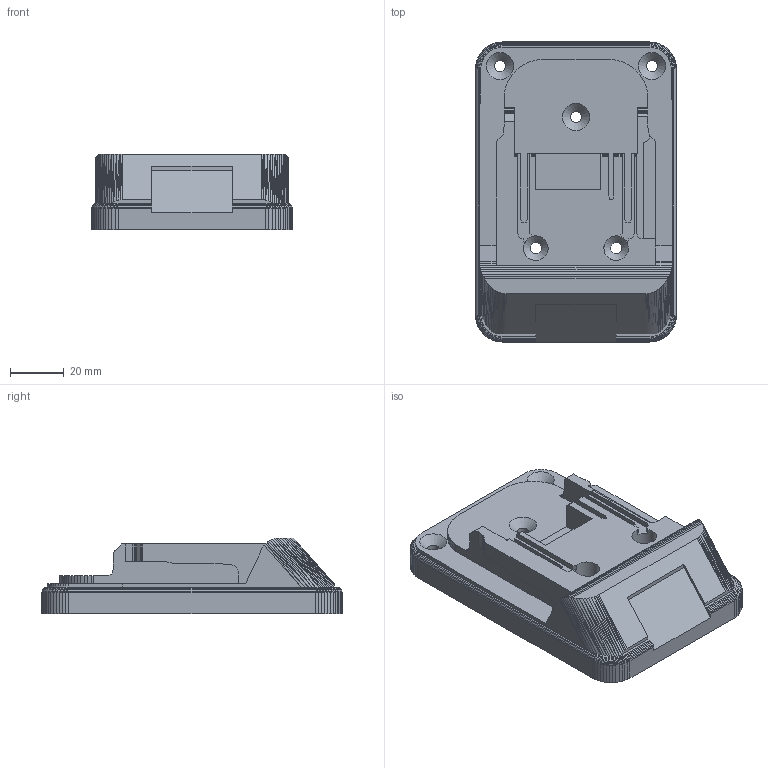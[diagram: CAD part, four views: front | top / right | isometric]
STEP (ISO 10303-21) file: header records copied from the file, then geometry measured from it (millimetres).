
FILE_DESCRIPTION(/* description */ (''),/* implementation_level */ '2;1');
FILE_NAME(/* name */ 'D:/A/Models/Makita Tool Holder.step',/* time_stamp */ '2020-03-16T16:56:11+03:00',/* author */ (''),/* organization */ (''),/* preprocessor_version */ 'ST-DEVELOPER v18',/* originating_system */ 'Autodesk Translation Framework v8.12.0.6',/* authorisation */ '');
FILE_SCHEMA (('AUTOMOTIVE_DESIGN { 1 0 10303 214 3 1 1 }'));
Length unit declared in the file: millimetre
Products named in the file (2): Makita Reverse Holder; Makita Tool Holder
Assembly tree (1 placements, depth 2):
  Makita Reverse Holder
    Makita Tool Holder
Bounding box: 75 x 112 x 28.3 mm (x, y, z)
Volume: 146818.7 mm3; surface area: 27983 mm2
Topology: 1 solids, 1 shells, 1052 faces, 2087 edges, 1035 vertices
Faces by surface type: plane 1035, cone 10, cylinder 7
Full cylindrical faces by diameter (mm): 4.2 x5, 9.2 x2
Entity records: 25205 total; most frequent: DIRECTION 4223, CARTESIAN_POINT 4177, ORIENTED_EDGE 4174, EDGE_CURVE 2087, LINE 2061, VECTOR 2061, AXIS2_PLACEMENT_3D 1081, EDGE_LOOP 1060
